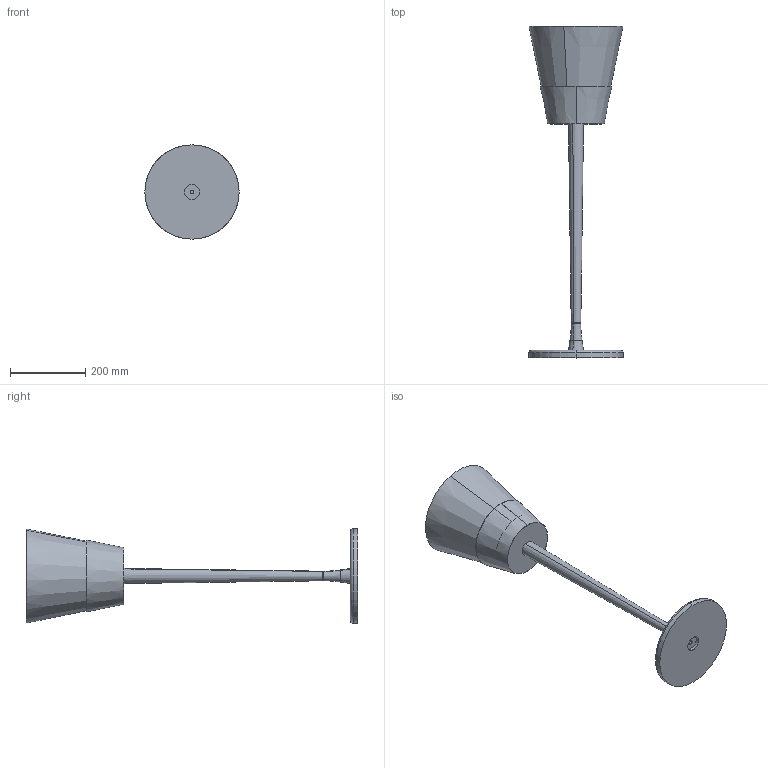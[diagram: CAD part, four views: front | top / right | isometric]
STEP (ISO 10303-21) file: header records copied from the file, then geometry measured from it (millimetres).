
FILE_DESCRIPTION (( 'STEP AP203' ), '1' );
FILE_NAME ('CHAMPAGNERA.STEP', '2017-05-04T15:23:02', ( 'Usuario' ), ( '' ), 'SwSTEP 2.0', 'SolidWorks 2016', '' );
FILE_SCHEMA (( 'CONFIG_CONTROL_DESIGN' ));
Length unit declared in the file: millimetre
Products named in the file (5): REPULSADO_CHAMPAGNERA; BASE_CHAMPANERA; RECIPIENTE_CRISTAL; CHAMPAGNERA; BASE_DE_MÁRMOL_CHAMPANERA
Assembly tree (4 placements, depth 2):
  CHAMPAGNERA
    REPULSADO_CHAMPAGNERA
    RECIPIENTE_CRISTAL
    BASE_CHAMPANERA
    BASE_DE_MÁRMOL_CHAMPANERA
Bounding box: 250 x 879.47 x 250 mm (x, y, z)
Volume: 2552954.3 mm3; surface area: 643248.1 mm2
Topology: 4 solids, 4 shells, 44 faces, 84 edges, 52 vertices
Faces by surface type: cone 14, cylinder 12, plane 12, torus 6
Entity records: 1661 total; most frequent: DIRECTION 244, CARTESIAN_POINT 187, ORIENTED_EDGE 168, AXIS2_PLACEMENT_3D 109, EDGE_CURVE 84, CIRCLE 58, EDGE_LOOP 52, VERTEX_POINT 52
